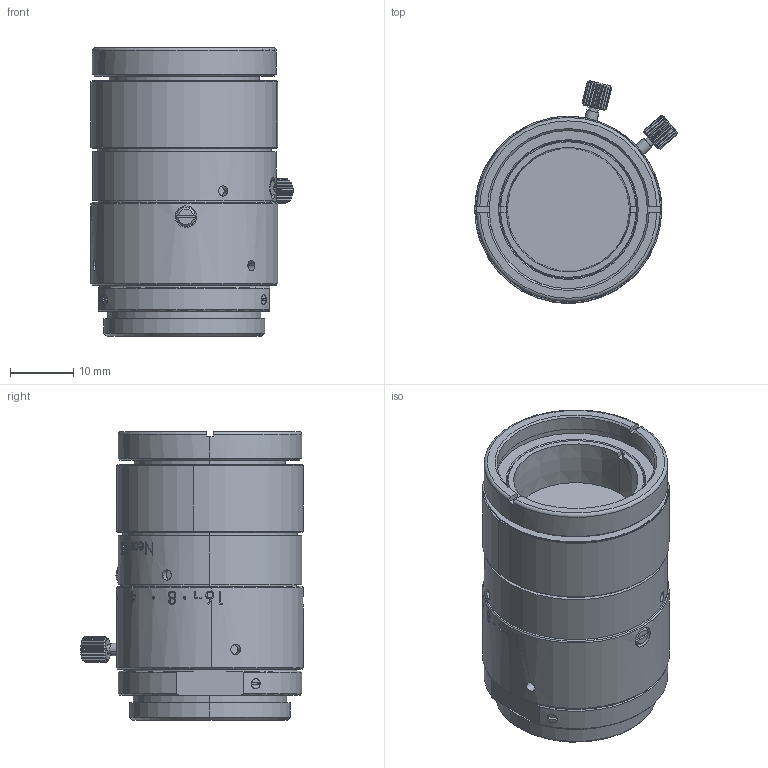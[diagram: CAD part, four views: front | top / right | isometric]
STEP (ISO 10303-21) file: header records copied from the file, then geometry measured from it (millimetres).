
FILE_DESCRIPTION (( 'STEP AP203' ), '1' );
FILE_NAME ('3d_ml-m5025hr_a003.STEP', '2019-04-12T01:04:13', ( '' ), ( '' ), 'SwSTEP 2.0', 'SolidWorks 2014', '' );
FILE_SCHEMA (( 'CONFIG_CONTROL_DESIGN' ));
Length unit declared in the file: millimetre
Products named in the file (1): 3d_ml-m5025hr_a003
Bounding box: 31.93 x 35.16 x 45.59 mm (x, y, z)
Volume: 24710.1 mm3; surface area: 8270 mm2
Topology: 1 solids, 1 shells, 838 faces, 2241 edges, 1481 vertices
Faces by surface type: cylinder 310, plane 293, bspline 166, cone 67, torus 2
Entity records: 43411 total; most frequent: CARTESIAN_POINT 24577, ORIENTED_EDGE 4482, DIRECTION 2974, EDGE_CURVE 2241, VERTEX_POINT 1481, AXIS2_PLACEMENT_3D 1144, B_SPLINE_CURVE_WITH_KNOTS 1084, EDGE_LOOP 914
